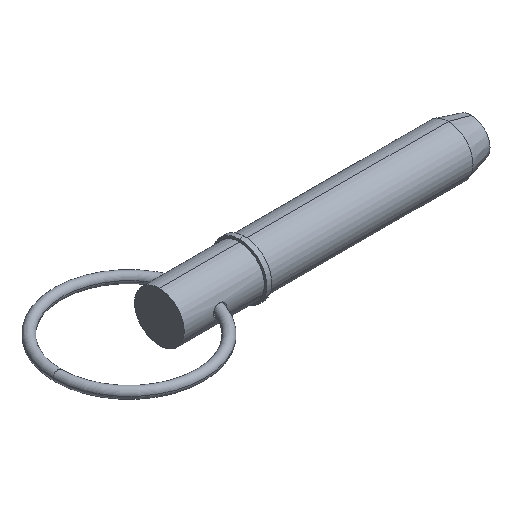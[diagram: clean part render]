
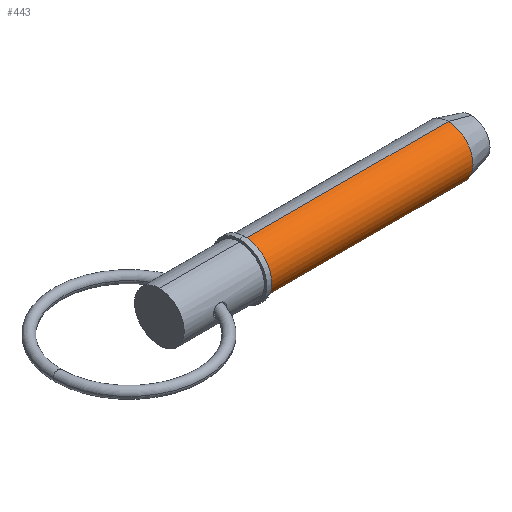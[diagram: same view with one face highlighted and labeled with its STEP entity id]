
A CAD part, isometric view. The second image highlights one B-rep face of the part: STEP entity #443.
In plain terms, the highlighted cylindrical face has radius 11.115 mm (diameter 22.23 mm), a partial arc.
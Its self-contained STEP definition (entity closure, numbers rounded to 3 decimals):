
#43 = EDGE_CURVE ( 'NONE', #635, #933, #483, .T. ) ;
#47 = DIRECTION ( 'NONE',  ( 1., 0., 0. ) ) ;
#56 = AXIS2_PLACEMENT_3D ( 'NONE', #292, #47, #708 ) ;
#58 = ORIENTED_EDGE ( 'NONE', *, *, #879, .T. ) ;
#125 = DIRECTION ( 'NONE',  ( 1., 0., 0. ) ) ;
#175 = EDGE_LOOP ( 'NONE', ( #630, #288, #58, #883 ) ) ;
#194 = CARTESIAN_POINT ( 'NONE',  ( 129.33, 0., -11.115 ) ) ;
#271 = AXIS2_PLACEMENT_3D ( 'NONE', #283, #340, #413 ) ;
#283 = CARTESIAN_POINT ( 'NONE',  ( 129.33, 0., 0. ) ) ;
#288 = ORIENTED_EDGE ( 'NONE', *, *, #849, .T. ) ;
#292 = CARTESIAN_POINT ( 'NONE',  ( 38.1, 0., 0. ) ) ;
#303 = VECTOR ( 'NONE', #963, 1000. ) ;
#328 = VERTEX_POINT ( 'NONE', #568 ) ;
#340 = DIRECTION ( 'NONE',  ( 1., 0., 0. ) ) ;
#413 = DIRECTION ( 'NONE',  ( 0., 0., -1. ) ) ;
#443 = ADVANCED_FACE ( 'NONE', ( #839 ), #847, .T. ) ;
#471 = AXIS2_PLACEMENT_3D ( 'NONE', #577, #1008, #580 ) ;
#483 = CIRCLE ( 'NONE', #271, 11.115 ) ;
#523 = CARTESIAN_POINT ( 'NONE',  ( 0., 0., 11.115 ) ) ;
#568 = CARTESIAN_POINT ( 'NONE',  ( 38.1, 0., -11.115 ) ) ;
#577 = CARTESIAN_POINT ( 'NONE',  ( 0., 0., 0. ) ) ;
#580 = DIRECTION ( 'NONE',  ( 0., 0., -1. ) ) ;
#615 = EDGE_CURVE ( 'NONE', #669, #635, #872, .T. ) ;
#630 = ORIENTED_EDGE ( 'NONE', *, *, #615, .F. ) ;
#632 = CARTESIAN_POINT ( 'NONE',  ( 129.33, 0., 11.115 ) ) ;
#635 = VERTEX_POINT ( 'NONE', #632 ) ;
#669 = VERTEX_POINT ( 'NONE', #970 ) ;
#702 = LINE ( 'NONE', #968, #303 ) ;
#708 = DIRECTION ( 'NONE',  ( 0., 0., -1. ) ) ;
#839 = FACE_OUTER_BOUND ( 'NONE', #175, .T. ) ;
#847 = CYLINDRICAL_SURFACE ( 'NONE', #471, 11.115 ) ;
#849 = EDGE_CURVE ( 'NONE', #669, #328, #1072, .T. ) ;
#867 = VECTOR ( 'NONE', #125, 1000. ) ;
#872 = LINE ( 'NONE', #523, #867 ) ;
#879 = EDGE_CURVE ( 'NONE', #328, #933, #702, .T. ) ;
#883 = ORIENTED_EDGE ( 'NONE', *, *, #43, .F. ) ;
#933 = VERTEX_POINT ( 'NONE', #194 ) ;
#963 = DIRECTION ( 'NONE',  ( 1., 0., 0. ) ) ;
#968 = CARTESIAN_POINT ( 'NONE',  ( 0., 0., -11.115 ) ) ;
#970 = CARTESIAN_POINT ( 'NONE',  ( 38.1, 0., 11.115 ) ) ;
#1008 = DIRECTION ( 'NONE',  ( 1., 0., 0. ) ) ;
#1072 = CIRCLE ( 'NONE', #56, 11.115 ) ;
